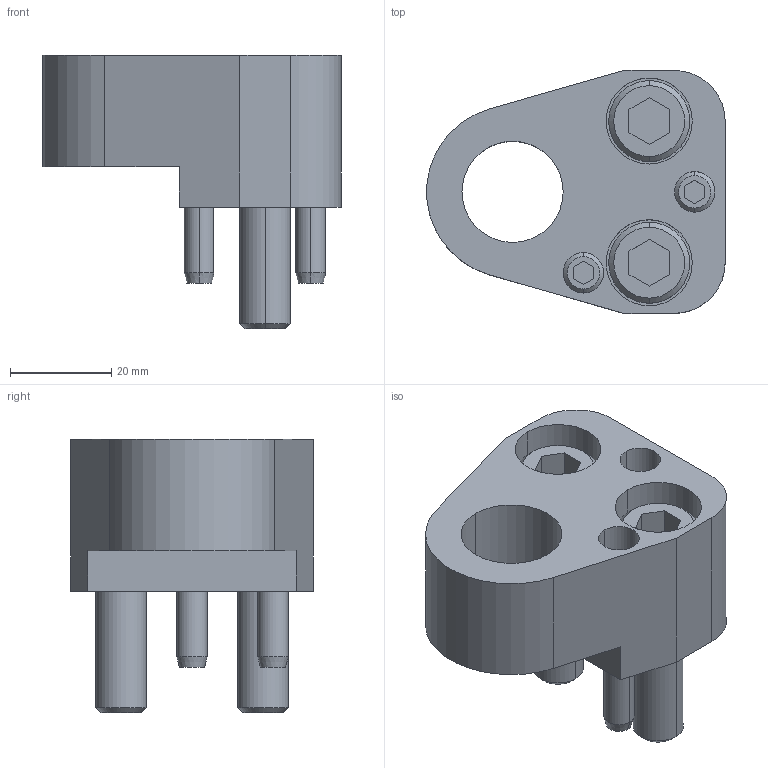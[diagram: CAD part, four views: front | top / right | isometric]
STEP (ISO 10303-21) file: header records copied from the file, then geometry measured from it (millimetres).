
FILE_DESCRIPTION(/* description */ (''),/* implementation_level */ '2;1');
FILE_NAME(/* name */ '3d_apfr20_02874_r00.stp',/* time_stamp */ '2011-01-10T14:17:43+09:00',/* author */ ('MISUMI'),/* organization */ (''),/* preprocessor_version */ 'ST-DEVELOPER v11',/* originating_system */ 'UGS - NX 5.0',/* authorisation */ '');
FILE_SCHEMA (('CONFIG_CONTROL_DESIGN'));
Length unit declared in the file: millimetre
Products named in the file (1): 3d_apfr20_02874_r00
Bounding box: 58.94 x 48 x 54 mm (x, y, z)
Volume: 54960.1 mm3; surface area: 20441.7 mm2
Topology: 7 solids, 7 shells, 134 faces, 296 edges, 189 vertices
Faces by surface type: plane 61, cylinder 47, cone 26
Entity records: 3838 total; most frequent: DIRECTION 682, CARTESIAN_POINT 673, ORIENTED_EDGE 592, EDGE_CURVE 296, AXIS2_PLACEMENT_3D 256, VERTEX_POINT 189, LINE 170, VECTOR 170
